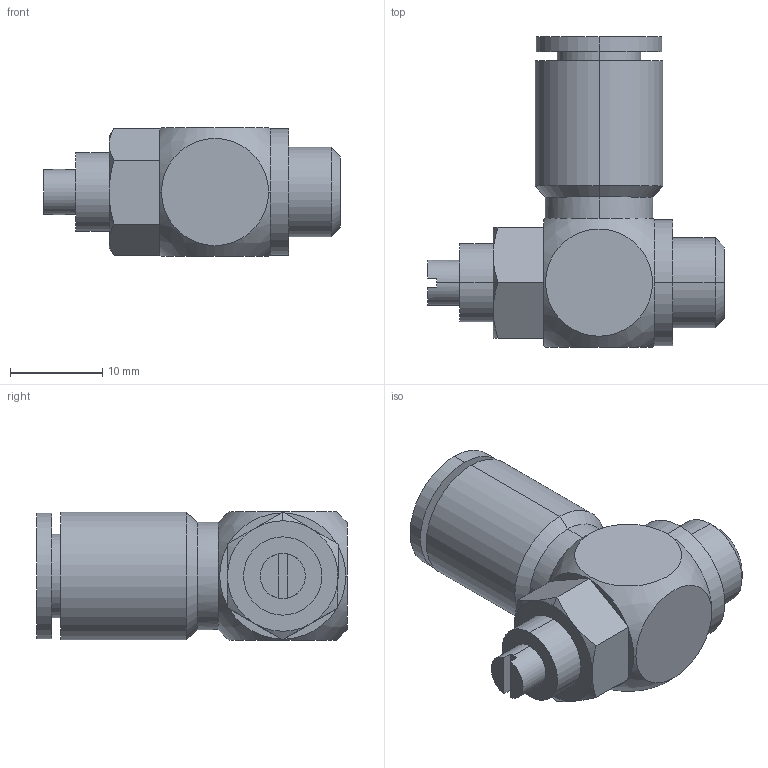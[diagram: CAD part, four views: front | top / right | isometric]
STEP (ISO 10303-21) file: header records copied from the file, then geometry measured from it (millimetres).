
FILE_DESCRIPTION (( 'STEP AP203' ), '1' );
FILE_NAME ('TKC-SQ8-01G.STEP', '2024-01-19T03:21:48', ( 'E.mc' ), ( 'E.mc' ), 'SwSTEP 2.0', 'SolidWorks 2023', '' );
FILE_SCHEMA (( 'CONFIG_CONTROL_DESIGN' ));
Length unit declared in the file: millimetre
Products named in the file (1): TKC-SQ8-01G
Bounding box: 32.2 x 33.7 x 14 mm (x, y, z)
Volume: 5566 mm3; surface area: 3209.8 mm2
Topology: 1 solids, 1 shells, 78 faces, 177 edges, 110 vertices
Faces by surface type: plane 39, cylinder 26, cone 11, sphere 2
Entity records: 2358 total; most frequent: CARTESIAN_POINT 489, DIRECTION 405, ORIENTED_EDGE 350, EDGE_CURVE 175, AXIS2_PLACEMENT_3D 170, VERTEX_POINT 110, CIRCLE 91, EDGE_LOOP 91
